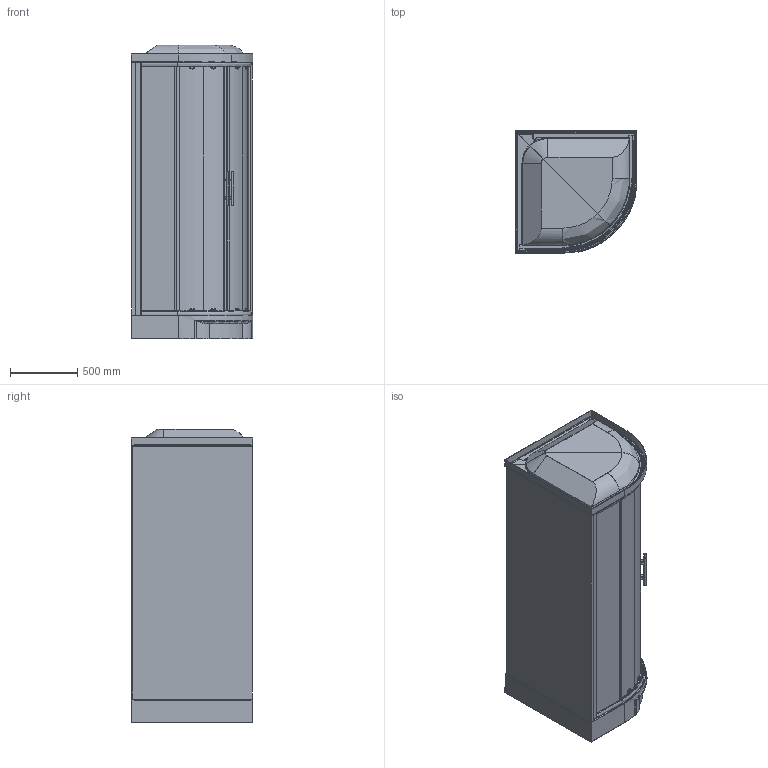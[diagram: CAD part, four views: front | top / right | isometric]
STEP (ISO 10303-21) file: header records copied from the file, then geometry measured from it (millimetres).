
FILE_DESCRIPTION(('STEP AP203'),'2;1');
FILE_NAME('NNH R 90 T T.stp','2015-09-04T15:12:55',(''),(''),'2014.1.117','THINKDESIGN','');
FILE_SCHEMA(('CONFIG_CONTROL_DESIGN'));
Length unit declared in the file: millimetre
Products named in the file (1): top
Bounding box: 904 x 904 x 2176.06 mm (x, y, z)
Volume: 208165133.7 mm3; surface area: 19369501.4 mm2
Topology: 42 solids, 42 shells, 915 faces, 2187 edges, 1357 vertices
Faces by surface type: bspline 605, plane 252, cylinder 58
Entity records: 100692 total; most frequent: CARTESIAN_POINT 83561, ORIENTED_EDGE 4330, EDGE_CURVE 2165, DIRECTION 2006, VERTEX_POINT 1349, EDGE_LOOP 928, FACE_OUTER_BOUND 913, ADVANCED_FACE 913
